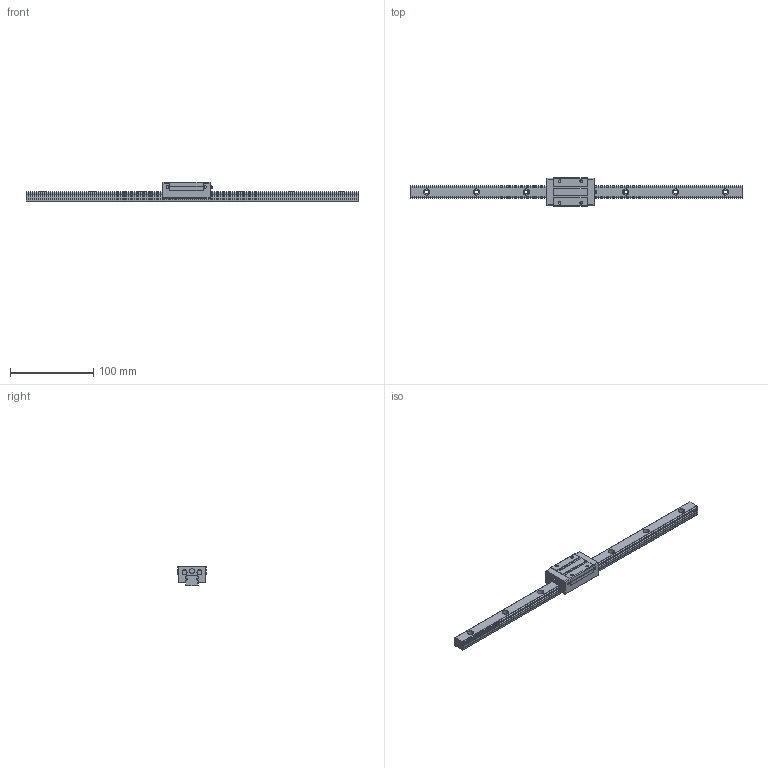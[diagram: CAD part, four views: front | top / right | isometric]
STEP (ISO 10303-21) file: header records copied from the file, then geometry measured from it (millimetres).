
FILE_DESCRIPTION((''),'2;1');
FILE_NAME('D:\製品 (図面)\カタログ用3D\リニアガイド関連\STEP形式\LGSR\LGSR15.stp','2010-06-02T16:01:16',('Tsuchiya'),(''),'Autodesk Inventor 10','Autodesk Inventor 10','');
FILE_SCHEMA(('AUTOMOTIVE_DESIGN { 1 0 10303 214 1 1 1 1 }'));
Length unit declared in the file: millimetre
Products named in the file (3): LGSR15; LGSR151; LGSR152
Assembly tree (2 placements, depth 2):
  LGSR15
    LGSR151
    LGSR152
Bounding box: 400 x 34 x 24 mm (x, y, z)
Volume: 97310.2 mm3; surface area: 34488 mm2
Topology: 2 solids, 2 shells, 166 faces, 411 edges, 273 vertices
Faces by surface type: plane 80, cylinder 45, bspline 37, sphere 2, cone 2
Full cylindrical faces by diameter (mm): 2.9 x2, 3.242 x2, 3.5 x1, 4.5 x1, 5.5 x2, 5.6 x1, 6 x2
Entity records: 5125 total; most frequent: CARTESIAN_POINT 1264, DIRECTION 772, ORIENTED_EDGE 730, EDGE_CURVE 365, AXIS2_PLACEMENT_3D 273, VERTEX_POINT 267, EDGE_LOOP 244, VECTOR 226
